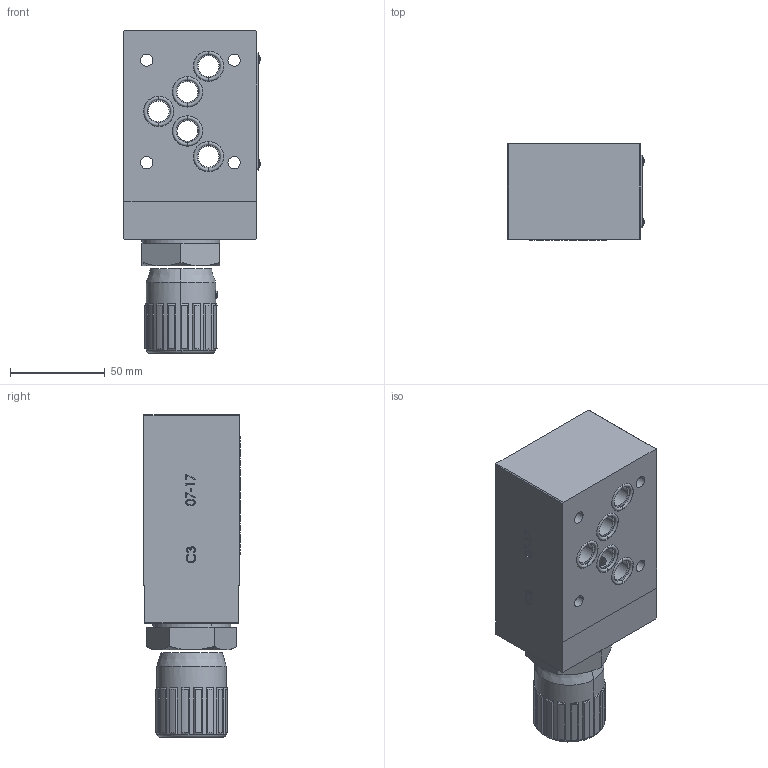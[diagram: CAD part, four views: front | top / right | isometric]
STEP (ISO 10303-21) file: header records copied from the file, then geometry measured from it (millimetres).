
FILE_DESCRIPTION (( 'STEP AP214' ), '1' );
FILE_NAME ('357-5-B-05.STEP', '2019-12-04T07:49:20', ( '' ), ( '' ), 'SwSTEP 2.0', 'SolidWorks 2018', '' );
FILE_SCHEMA (( 'AUTOMOTIVE_DESIGN' ));
Length unit declared in the file: millimetre
Products named in the file (1): 357-5-B-05
Bounding box: 71.66 x 50.58 x 169.8 mm (x, y, z)
Surface area: 57576.9 mm2 (no closed solid volume)
Topology: 0 solids, 58 shells, 760 faces, 3822 edges, 3022 vertices
Faces by surface type: plane 460, cylinder 124, bspline 90, cone 56, torus 22, sphere 8
Entity records: 59960 total; most frequent: CARTESIAN_POINT 23720, ORIENTED_EDGE 5249, DIRECTION 4778, EDGE_CURVE 3822, VERTEX_POINT 3022, LINE 2518, VECTOR 2518, AXIS2_PLACEMENT_3D 1130
